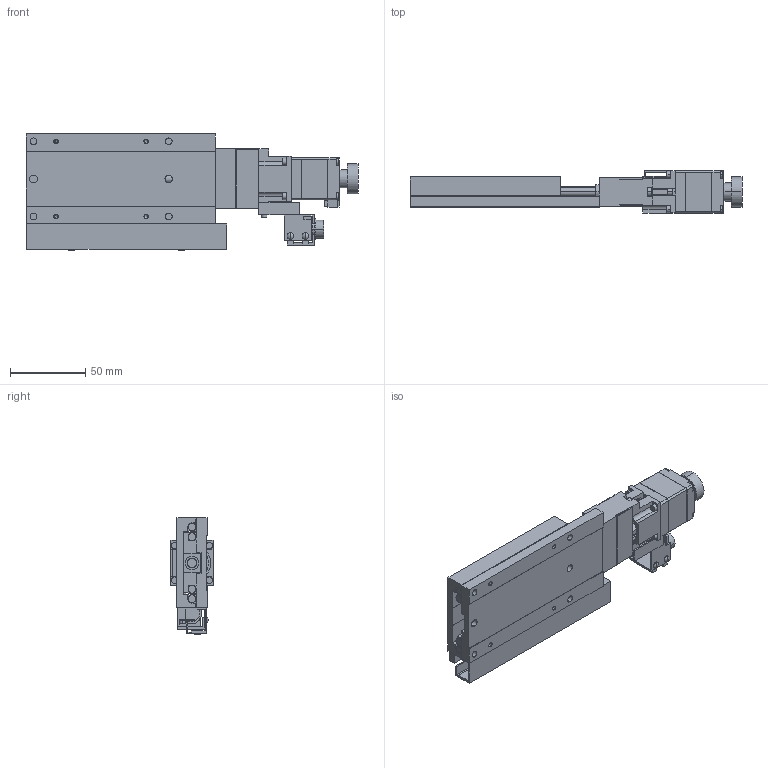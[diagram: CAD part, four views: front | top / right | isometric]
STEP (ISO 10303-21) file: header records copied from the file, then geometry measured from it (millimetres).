
FILE_DESCRIPTION(('STEP AP203'),'1');
FILE_NAME('C:/3D-Trans/3D_PG650M-R□-C4+231013.step','2023-10-13T07:20:23',(' '),(' '),'Spatial InterOp 3D',' ',' ');
FILE_SCHEMA(('CONFIG_CONTROL_DESIGN'));
Length unit declared in the file: millimetre
Products named in the file (6): 1; 2; 3; 4; 5; 6
Bounding box: 221 x 28 x 77.4 mm (x, y, z)
Volume: 160422.4 mm3; surface area: 80888.6 mm2
Topology: 6 solids, 6 shells, 732 faces, 1880 edges, 1194 vertices
Faces by surface type: plane 444, cylinder 220, cone 64, sphere 4
Entity records: 22454 total; most frequent: CARTESIAN_POINT 3976, DIRECTION 3878, ORIENTED_EDGE 3712, EDGE_CURVE 1856, LINE 1294, VECTOR 1294, AXIS2_PLACEMENT_3D 1292, VERTEX_POINT 1194
